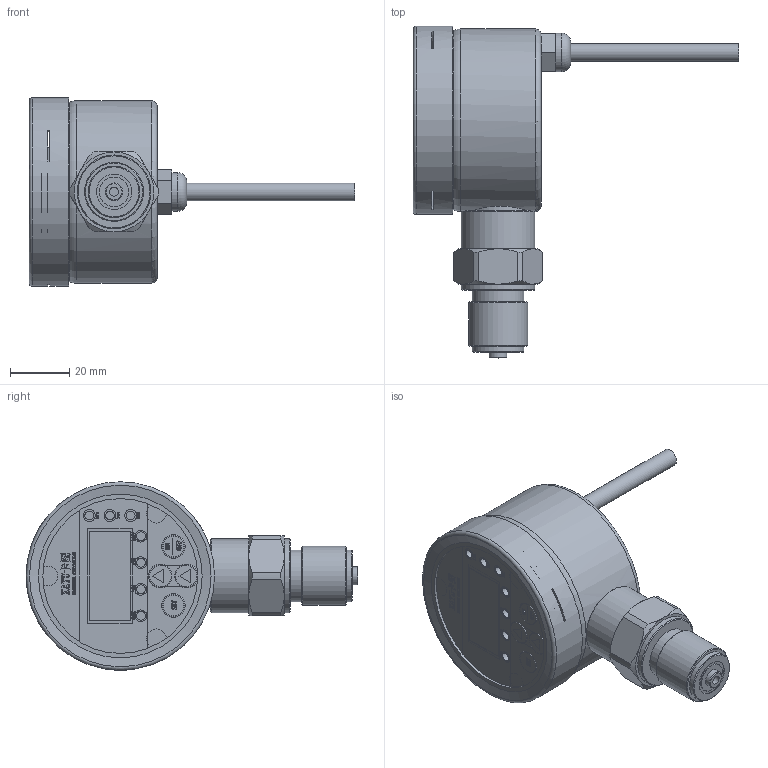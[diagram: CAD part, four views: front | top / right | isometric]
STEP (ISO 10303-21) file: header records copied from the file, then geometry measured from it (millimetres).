
FILE_DESCRIPTION( (''), '2;1');
FILE_NAME( 'PMKB_60mm_radial.step', '2024-12-27T14:10:55+08:00', (''), (''), '', '', '');
FILE_SCHEMA (('AUTOMOTIVE_DESIGN { 1 0 10303 214 3 1 1 1 }'));
Length unit declared in the file: millimetre
Products named in the file (1): PMKB 60mm_radial
Bounding box: 110.36 x 112.52 x 63.9 mm (x, y, z)
Volume: 48572.7 mm3; surface area: 53428.7 mm2
Topology: 13 solids, 13 shells, 1566 faces, 4221 edges, 2801 vertices
Faces by surface type: plane 937, bspline 433, cylinder 138, cone 43, torus 15
Full cylindrical faces by diameter (mm): 3 x1, 6 x2, 7 x1, 10 x1, 12 x2, 13 x1, 15 x1, 17.5 x2, 19.1 x1, 20 x2, 21 x1, 22 x2, 25 x2, 52.5 x1, 54.7 x1, 59.9 x1, 61.9 x2, 63.9 x1
Entity records: 78740 total; most frequent: CARTESIAN_POINT 33476, ORIENTED_EDGE 8336, DIRECTION 5886, EDGE_CURVE 4168, LINE 2884, VECTOR 2884, VERTEX_POINT 2791, EDGE_LOOP 1793
